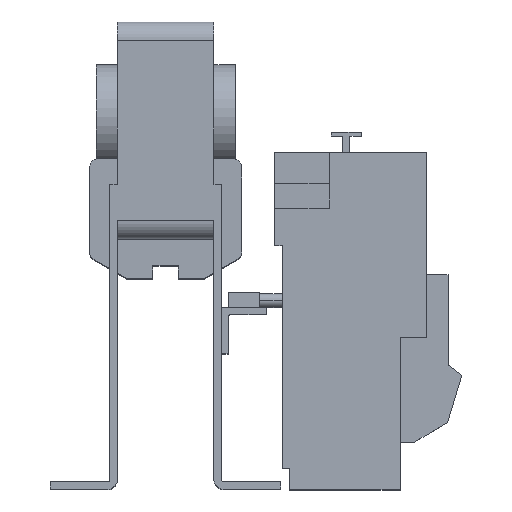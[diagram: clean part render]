
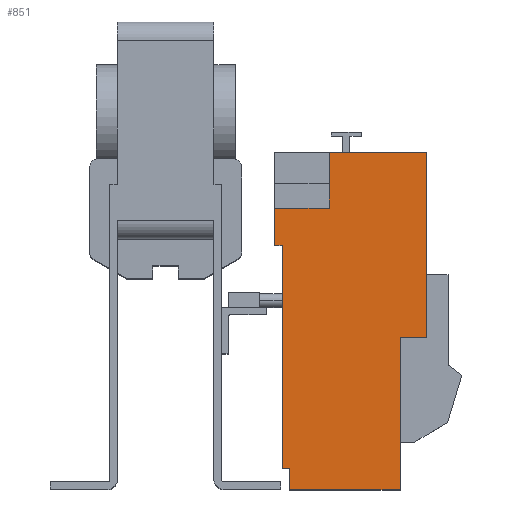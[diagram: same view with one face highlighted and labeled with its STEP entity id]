
A CAD part, top view. The second image highlights one B-rep face of the part: STEP entity #851.
In plain terms, the highlighted planar face has unit normal (0, 0, 1).
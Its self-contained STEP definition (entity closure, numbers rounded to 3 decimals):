
#95 = EDGE_CURVE ( 'NONE', #662, #14284, #11430, .T. ) ;
#111 = VERTEX_POINT ( 'NONE', #3316 ) ;
#180 = VECTOR ( 'NONE', #13631, 1000. ) ;
#354 = DIRECTION ( 'NONE',  ( 1., 0., 0. ) ) ;
#517 = VECTOR ( 'NONE', #9193, 1000. ) ;
#642 = DIRECTION ( 'NONE',  ( 1., 0., 0. ) ) ;
#662 = VERTEX_POINT ( 'NONE', #10803 ) ;
#701 = VERTEX_POINT ( 'NONE', #8629 ) ;
#752 = ORIENTED_EDGE ( 'NONE', *, *, #7346, .F. ) ;
#851 = ADVANCED_FACE ( 'NONE', ( #7236 ), #12207, .F. ) ;
#1077 = EDGE_CURVE ( 'NONE', #1185, #4470, #10008, .T. ) ;
#1185 = VERTEX_POINT ( 'NONE', #2932 ) ;
#1466 = CARTESIAN_POINT ( 'NONE',  ( 35.5, 61.1, -8. ) ) ;
#1511 = CARTESIAN_POINT ( 'NONE',  ( 56.6, 33.1, -8. ) ) ;
#1607 = EDGE_CURVE ( 'NONE', #701, #2991, #12094, .T. ) ;
#1617 = DIRECTION ( 'NONE',  ( 0., -1., 0. ) ) ;
#1654 = CARTESIAN_POINT ( 'NONE',  ( 26.9, 4.55, -8. ) ) ;
#1697 = LINE ( 'NONE', #3397, #13100 ) ;
#1951 = VECTOR ( 'NONE', #354, 1000. ) ;
#2323 = DIRECTION ( 'NONE',  ( -1., 0., 0. ) ) ;
#2354 = ORIENTED_EDGE ( 'NONE', *, *, #13075, .T. ) ;
#2486 = CARTESIAN_POINT ( 'NONE',  ( 50.9, 0., -8. ) ) ;
#2591 = DIRECTION ( 'NONE',  ( 0., -1., 0. ) ) ;
#2932 = CARTESIAN_POINT ( 'NONE',  ( 56.6, 73.2, -8. ) ) ;
#2991 = VERTEX_POINT ( 'NONE', #3826 ) ;
#3005 = LINE ( 'NONE', #6174, #11454 ) ;
#3137 = VERTEX_POINT ( 'NONE', #5221 ) ;
#3316 = CARTESIAN_POINT ( 'NONE',  ( 35.5, 73.2, -8. ) ) ;
#3397 = CARTESIAN_POINT ( 'NONE',  ( 23.7, 53., -8. ) ) ;
#3665 = CARTESIAN_POINT ( 'NONE',  ( 25.3, 73.2, -8. ) ) ;
#3826 = CARTESIAN_POINT ( 'NONE',  ( 25.3, 4.55, -8. ) ) ;
#3895 = VERTEX_POINT ( 'NONE', #13623 ) ;
#4470 = VERTEX_POINT ( 'NONE', #5865 ) ;
#4493 = CARTESIAN_POINT ( 'NONE',  ( 25.3, 73.2, -8. ) ) ;
#4891 = LINE ( 'NONE', #3665, #1951 ) ;
#5101 = EDGE_CURVE ( 'NONE', #3895, #14284, #3005, .T. ) ;
#5221 = CARTESIAN_POINT ( 'NONE',  ( 23.7, 61.1, -8. ) ) ;
#5563 = EDGE_CURVE ( 'NONE', #111, #1185, #4891, .T. ) ;
#5865 = CARTESIAN_POINT ( 'NONE',  ( 56.6, 33.1, -8. ) ) ;
#6066 = LINE ( 'NONE', #8161, #14167 ) ;
#6174 = CARTESIAN_POINT ( 'NONE',  ( 25.3, 0., -8. ) ) ;
#6247 = VECTOR ( 'NONE', #7035, 1000. ) ;
#6316 = ORIENTED_EDGE ( 'NONE', *, *, #14250, .F. ) ;
#6366 = VERTEX_POINT ( 'NONE', #9704 ) ;
#6414 = LINE ( 'NONE', #1466, #517 ) ;
#6684 = EDGE_CURVE ( 'NONE', #10923, #111, #6414, .T. ) ;
#6708 = EDGE_CURVE ( 'NONE', #3895, #701, #8655, .T. ) ;
#6752 = LINE ( 'NONE', #11356, #12966 ) ;
#6773 = ORIENTED_EDGE ( 'NONE', *, *, #6708, .F. ) ;
#6812 = DIRECTION ( 'NONE',  ( 1., 0., 0. ) ) ;
#6820 = CARTESIAN_POINT ( 'NONE',  ( 23.7, 61.1, -8. ) ) ;
#7035 = DIRECTION ( 'NONE',  ( 0., -1., 0. ) ) ;
#7225 = EDGE_CURVE ( 'NONE', #6366, #3137, #10731, .T. ) ;
#7227 = ORIENTED_EDGE ( 'NONE', *, *, #7225, .F. ) ;
#7236 = FACE_OUTER_BOUND ( 'NONE', #10964, .T. ) ;
#7288 = EDGE_CURVE ( 'NONE', #10908, #2991, #6752, .T. ) ;
#7346 = EDGE_CURVE ( 'NONE', #4470, #662, #6066, .T. ) ;
#7423 = VECTOR ( 'NONE', #9036, 1000. ) ;
#7855 = CARTESIAN_POINT ( 'NONE',  ( 25.3, 61.1, -8. ) ) ;
#8161 = CARTESIAN_POINT ( 'NONE',  ( 56.6, 33.1, -8. ) ) ;
#8241 = ORIENTED_EDGE ( 'NONE', *, *, #5563, .F. ) ;
#8508 = CARTESIAN_POINT ( 'NONE',  ( 35.5, 61.1, -8. ) ) ;
#8629 = CARTESIAN_POINT ( 'NONE',  ( 26.9, 4.55, -8. ) ) ;
#8655 = LINE ( 'NONE', #12543, #180 ) ;
#8908 = DIRECTION ( 'NONE',  ( 0., 0., -1. ) ) ;
#9036 = DIRECTION ( 'NONE',  ( 0., 1., 0. ) ) ;
#9193 = DIRECTION ( 'NONE',  ( 0., 1., 0. ) ) ;
#9272 = DIRECTION ( 'NONE',  ( -1., 0., 0. ) ) ;
#9376 = DIRECTION ( 'NONE',  ( -1., 0., 0. ) ) ;
#9529 = ORIENTED_EDGE ( 'NONE', *, *, #5101, .T. ) ;
#9704 = CARTESIAN_POINT ( 'NONE',  ( 23.7, 53., -8. ) ) ;
#10008 = LINE ( 'NONE', #1511, #10553 ) ;
#10196 = ORIENTED_EDGE ( 'NONE', *, *, #7288, .T. ) ;
#10553 = VECTOR ( 'NONE', #1617, 1000. ) ;
#10679 = AXIS2_PLACEMENT_3D ( 'NONE', #4493, #8908, #2323 ) ;
#10731 = LINE ( 'NONE', #6820, #7423 ) ;
#10803 = CARTESIAN_POINT ( 'NONE',  ( 50.9, 33.1, -8. ) ) ;
#10908 = VERTEX_POINT ( 'NONE', #11797 ) ;
#10923 = VERTEX_POINT ( 'NONE', #8508 ) ;
#10964 = EDGE_LOOP ( 'NONE', ( #8241, #12276, #6316, #7227, #2354, #10196, #11845, #6773, #9529, #14308, #752, #12147 ) ) ;
#11351 = VECTOR ( 'NONE', #6812, 1000. ) ;
#11356 = CARTESIAN_POINT ( 'NONE',  ( 25.3, 73.2, -8. ) ) ;
#11430 = LINE ( 'NONE', #14166, #6247 ) ;
#11454 = VECTOR ( 'NONE', #642, 1000. ) ;
#11797 = CARTESIAN_POINT ( 'NONE',  ( 25.3, 53., -8. ) ) ;
#11845 = ORIENTED_EDGE ( 'NONE', *, *, #1607, .F. ) ;
#12094 = LINE ( 'NONE', #1654, #12439 ) ;
#12147 = ORIENTED_EDGE ( 'NONE', *, *, #1077, .F. ) ;
#12207 = PLANE ( 'NONE',  #10679 ) ;
#12276 = ORIENTED_EDGE ( 'NONE', *, *, #6684, .F. ) ;
#12439 = VECTOR ( 'NONE', #9376, 1000. ) ;
#12543 = CARTESIAN_POINT ( 'NONE',  ( 26.9, 0., -8. ) ) ;
#12966 = VECTOR ( 'NONE', #2591, 1000. ) ;
#13075 = EDGE_CURVE ( 'NONE', #6366, #10908, #1697, .T. ) ;
#13100 = VECTOR ( 'NONE', #13317, 1000. ) ;
#13317 = DIRECTION ( 'NONE',  ( 1., 0., 0. ) ) ;
#13623 = CARTESIAN_POINT ( 'NONE',  ( 26.9, 0., -8. ) ) ;
#13631 = DIRECTION ( 'NONE',  ( 0., 1., 0. ) ) ;
#14166 = CARTESIAN_POINT ( 'NONE',  ( 50.9, 73.2, -8. ) ) ;
#14167 = VECTOR ( 'NONE', #9272, 1000. ) ;
#14250 = EDGE_CURVE ( 'NONE', #3137, #10923, #14285, .T. ) ;
#14284 = VERTEX_POINT ( 'NONE', #2486 ) ;
#14285 = LINE ( 'NONE', #7855, #11351 ) ;
#14308 = ORIENTED_EDGE ( 'NONE', *, *, #95, .F. ) ;
